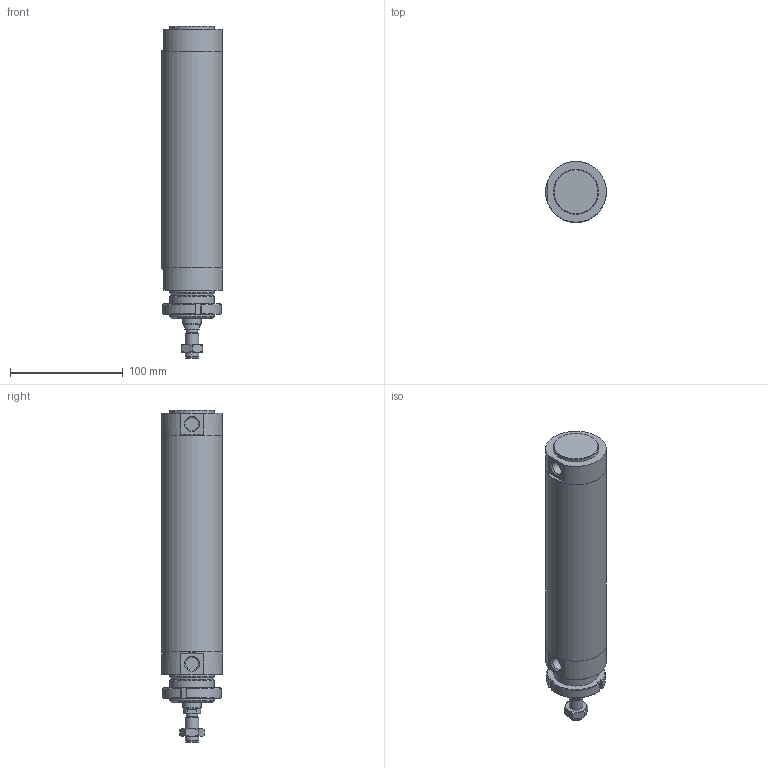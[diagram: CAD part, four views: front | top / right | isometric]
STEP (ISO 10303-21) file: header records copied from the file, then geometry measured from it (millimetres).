
FILE_DESCRIPTION(/* description */ (''),/* implementation_level */ '2;1');
FILE_NAME(/* name */ 'I:\Area Tecnica\Documenti\A-Manieri\_Inventor\12X\12X#D_###_####_#_#\12XAD_050_0150_#_#.stp',/* time_stamp */ '2015-04-29T16:44:15+02:00',/* author */ ('maniean1'),/* organization */ ('Pneumax S.p.A.'),/* preprocessor_version */ 'ST-DEVELOPER v15.2',/* originating_system */ 'Autodesk Inventor 2014',/* authorisation */ '');
FILE_SCHEMA (('AUTOMOTIVE_DESIGN { 1 0 10303 214 3 1 1 }'));
Length unit declared in the file: millimetre
Products named in the file (7): C1250_619-0150; 12X50_604; S12X50_0150; 12X_50_11; 12X50_611; G12X_050_05; 12XAD_050_0150_#_#
Bounding box: 54 x 54 x 295 mm (x, y, z)
Volume: 314637.5 mm3; surface area: 112080.4 mm2
Topology: 6 solids, 6 shells, 81 faces, 175 edges, 112 vertices
Faces by surface type: plane 41, cylinder 21, cone 19
Full cylindrical faces by diameter (mm): 10.2 x1, 11.4 x2, 12 x2, 14 x1, 15.6 x1, 16 x1, 38.2 x1, 40 x4, 50 x2, 54 x3
Entity records: 2155 total; most frequent: CARTESIAN_POINT 400, DIRECTION 364, ORIENTED_EDGE 284, AXIS2_PLACEMENT_3D 156, EDGE_CURVE 142, EDGE_LOOP 124, VERTEX_POINT 108, ADVANCED_FACE 81
